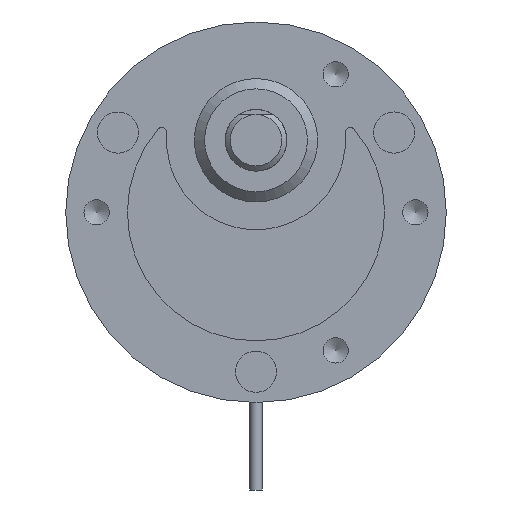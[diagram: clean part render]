
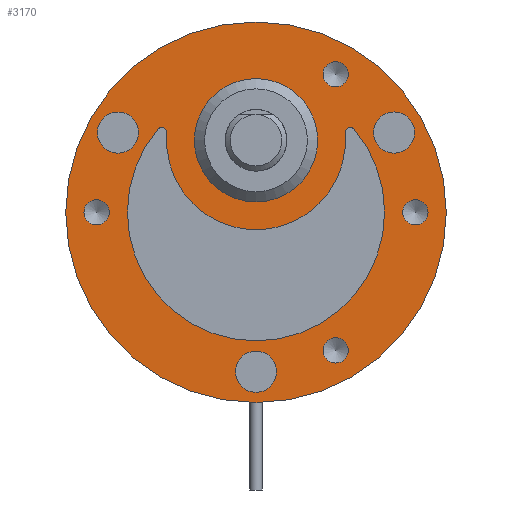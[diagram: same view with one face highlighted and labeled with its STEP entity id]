
A CAD part, front view. The second image highlights one B-rep face of the part: STEP entity #3170.
In plain terms, the highlighted planar face has unit normal (0, -1, 0).
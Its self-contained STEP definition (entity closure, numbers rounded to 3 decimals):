
#2363=CARTESIAN_POINT('',(12.423,-1.4,9.482));
#2364=VERTEX_POINT('',#2363);
#2365=CARTESIAN_POINT('',(13.423,-1.4,7.75));
#2366=DIRECTION('',(0.0,1.0,0.0));
#2367=DIRECTION('',(0.5,0.0,-0.866));
#2368=AXIS2_PLACEMENT_3D('',#2365,#2366,#2367);
#2369=CIRCLE('',#2368,2.);
#2370=EDGE_CURVE('',#2364,#2364,#2369,.T.);
#2400=CARTESIAN_POINT('',(-14.423,-1.4,6.018));
#2401=VERTEX_POINT('',#2400);
#2402=CARTESIAN_POINT('',(-13.423,-1.4,7.75));
#2403=DIRECTION('',(0.0,1.,0.0));
#2404=DIRECTION('',(0.5,0.0,0.866));
#2405=AXIS2_PLACEMENT_3D('',#2402,#2403,#2404);
#2406=CIRCLE('',#2405,2.0);
#2407=EDGE_CURVE('',#2401,#2401,#2406,.T.);
#2437=CARTESIAN_POINT('',(2.0,-1.4,-15.5));
#2438=VERTEX_POINT('',#2437);
#2439=CARTESIAN_POINT('',(0.0,-1.4,-15.5));
#2440=DIRECTION('',(0.0,1.0,0.0));
#2441=DIRECTION('',(-1.0,0.0,0.0));
#2442=AXIS2_PLACEMENT_3D('',#2439,#2440,#2441);
#2443=CIRCLE('',#2442,2.0);
#2444=EDGE_CURVE('',#2438,#2438,#2443,.T.);
#2625=CARTESIAN_POINT('',(6.,-1.4,7.));
#2626=VERTEX_POINT('',#2625);
#2627=CARTESIAN_POINT('',(0.0,-1.4,7.));
#2628=DIRECTION('',(0.0,1.0,0.0));
#2629=DIRECTION('',(-1.0,0.0,0.0));
#2630=AXIS2_PLACEMENT_3D('',#2627,#2628,#2629);
#2631=CIRCLE('',#2630,6.);
#2632=EDGE_CURVE('',#2626,#2626,#2631,.T.);
#2716=CARTESIAN_POINT('',(16.73,-1.4,0.0));
#2717=VERTEX_POINT('',#2716);
#2718=CARTESIAN_POINT('',(15.5,-1.4,0.0));
#2719=DIRECTION('',(0.0,1.0,0.0));
#2720=DIRECTION('',(1.0,0.0,0.0));
#2721=AXIS2_PLACEMENT_3D('',#2718,#2719,#2720);
#2722=CIRCLE('',#2721,1.23);
#2723=EDGE_CURVE('',#2717,#2717,#2722,.T.);
#2795=CARTESIAN_POINT('',(-14.27,-1.4,0.0));
#2796=VERTEX_POINT('',#2795);
#2797=CARTESIAN_POINT('',(-15.5,-1.4,0.0));
#2798=DIRECTION('',(0.0,1.0,0.0));
#2799=DIRECTION('',(1.0,0.0,0.0));
#2800=AXIS2_PLACEMENT_3D('',#2797,#2798,#2799);
#2801=CIRCLE('',#2800,1.23);
#2802=EDGE_CURVE('',#2796,#2796,#2801,.T.);
#2874=CARTESIAN_POINT('',(8.979,-1.4,13.423));
#2875=VERTEX_POINT('',#2874);
#2876=CARTESIAN_POINT('',(7.75,-1.4,13.423));
#2877=DIRECTION('',(0.0,1.0,0.0));
#2878=DIRECTION('',(1.0,0.0,0.0));
#2879=AXIS2_PLACEMENT_3D('',#2876,#2877,#2878);
#2880=CIRCLE('',#2879,1.23);
#2881=EDGE_CURVE('',#2875,#2875,#2880,.T.);
#2953=CARTESIAN_POINT('',(8.979,-1.4,-13.423));
#2954=VERTEX_POINT('',#2953);
#2955=CARTESIAN_POINT('',(7.75,-1.4,-13.423));
#2956=DIRECTION('',(0.0,1.0,0.0));
#2957=DIRECTION('',(1.0,0.0,0.0));
#2958=AXIS2_PLACEMENT_3D('',#2955,#2956,#2957);
#2959=CIRCLE('',#2958,1.23);
#2960=EDGE_CURVE('',#2954,#2954,#2959,.T.);
#2984=CARTESIAN_POINT('',(-9.552,-1.4,8.063));
#2985=VERTEX_POINT('',#2984);
#2992=CARTESIAN_POINT('',(9.552,-1.4,8.063));
#2993=VERTEX_POINT('',#2992);
#2994=CARTESIAN_POINT('',(0.0,-1.4,0.0));
#2995=DIRECTION('',(0.0,1.0,0.0));
#2996=DIRECTION('',(0.764,0.0,-0.645));
#2997=AXIS2_PLACEMENT_3D('',#2994,#2995,#2996);
#2998=CIRCLE('',#2997,12.5);
#2999=EDGE_CURVE('',#2993,#2985,#2998,.T.);
#3025=CARTESIAN_POINT('',(8.672,-1.4,7.7));
#3026=VERTEX_POINT('',#3025);
#3027=CARTESIAN_POINT('',(9.17,-1.4,7.74));
#3028=DIRECTION('',(0.0,1.,0.0));
#3029=DIRECTION('',(-0.764,0.0,-0.645));
#3030=AXIS2_PLACEMENT_3D('',#3027,#3028,#3029);
#3031=CIRCLE('',#3030,0.5);
#3032=EDGE_CURVE('',#3026,#2993,#3031,.T.);
#3058=CARTESIAN_POINT('',(-8.672,-1.4,7.7));
#3059=VERTEX_POINT('',#3058);
#3060=CARTESIAN_POINT('',(0.0,-1.4,7.));
#3061=DIRECTION('',(0.0,-1.,0.0));
#3062=DIRECTION('',(-0.997,0.0,0.08));
#3063=AXIS2_PLACEMENT_3D('',#3060,#3061,#3062);
#3064=CIRCLE('',#3063,8.7);
#3065=EDGE_CURVE('',#3059,#3026,#3064,.T.);
#3089=CARTESIAN_POINT('',(-9.17,-1.4,7.74));
#3090=DIRECTION('',(0.0,1.0,0.0));
#3091=DIRECTION('',(-0.997,0.0,0.08));
#3092=AXIS2_PLACEMENT_3D('',#3089,#3090,#3091);
#3093=CIRCLE('',#3092,0.5);
#3094=EDGE_CURVE('',#2985,#3059,#3093,.T.);
#3120=CARTESIAN_POINT('',(-18.5,-1.4,0.));
#3121=VERTEX_POINT('',#3120);
#3122=CARTESIAN_POINT('',(0.0,-1.4,0.0));
#3123=DIRECTION('',(0.0,-1.0,0.0));
#3124=DIRECTION('',(1.0,0.0,0.0));
#3125=AXIS2_PLACEMENT_3D('',#3122,#3123,#3124);
#3126=CIRCLE('',#3125,18.5);
#3127=EDGE_CURVE('',#3121,#3121,#3126,.T.);
#3132=CARTESIAN_POINT('',(0.0,-1.4,0.0));
#3133=DIRECTION('',(0.0,-1.0,0.0));
#3134=DIRECTION('',(0.0,0.0,-1.0));
#3135=AXIS2_PLACEMENT_3D('',#3132,#3133,#3134);
#3136=PLANE('',#3135);
#3137=ORIENTED_EDGE('',*,*,#3127,.T.);
#3138=EDGE_LOOP('',(#3137));
#3139=FACE_OUTER_BOUND('',#3138,.T.);
#3140=ORIENTED_EDGE('',*,*,#2370,.T.);
#3141=EDGE_LOOP('',(#3140));
#3142=FACE_BOUND('',#3141,.T.);
#3143=ORIENTED_EDGE('',*,*,#2407,.T.);
#3144=EDGE_LOOP('',(#3143));
#3145=FACE_BOUND('',#3144,.T.);
#3146=ORIENTED_EDGE('',*,*,#2444,.T.);
#3147=EDGE_LOOP('',(#3146));
#3148=FACE_BOUND('',#3147,.T.);
#3149=ORIENTED_EDGE('',*,*,#2723,.T.);
#3150=EDGE_LOOP('',(#3149));
#3151=FACE_BOUND('',#3150,.T.);
#3152=ORIENTED_EDGE('',*,*,#2802,.T.);
#3153=EDGE_LOOP('',(#3152));
#3154=FACE_BOUND('',#3153,.T.);
#3155=ORIENTED_EDGE('',*,*,#2881,.T.);
#3156=EDGE_LOOP('',(#3155));
#3157=FACE_BOUND('',#3156,.T.);
#3158=ORIENTED_EDGE('',*,*,#2960,.T.);
#3159=EDGE_LOOP('',(#3158));
#3160=FACE_BOUND('',#3159,.T.);
#3161=ORIENTED_EDGE('',*,*,#2999,.T.);
#3162=ORIENTED_EDGE('',*,*,#3094,.T.);
#3163=ORIENTED_EDGE('',*,*,#3065,.T.);
#3164=ORIENTED_EDGE('',*,*,#3032,.T.);
#3165=EDGE_LOOP('',(#3161,#3162,#3163,#3164));
#3166=FACE_BOUND('',#3165,.T.);
#3167=ORIENTED_EDGE('',*,*,#2632,.T.);
#3168=EDGE_LOOP('',(#3167));
#3169=FACE_BOUND('',#3168,.T.);
#3170=ADVANCED_FACE('',(#3139,#3142,#3145,#3148,#3151,#3154,#3157,#3160,#3166,#3169),#3136,.T.);
